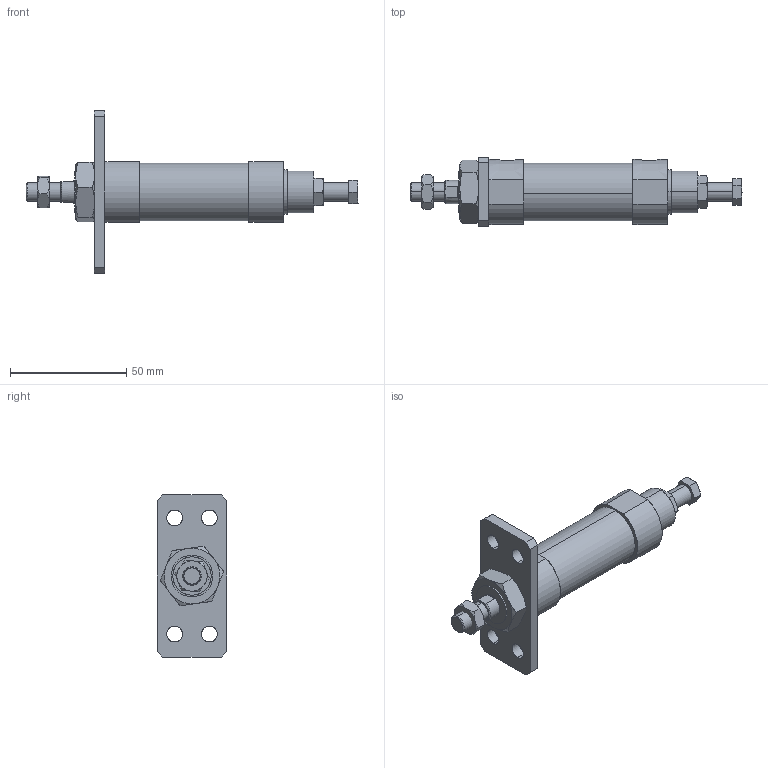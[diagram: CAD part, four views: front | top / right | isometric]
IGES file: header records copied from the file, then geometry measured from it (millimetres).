
Start section: SolidWorks IGES file using analytic representation for surfaces
Global section: file name: C:\Users\Toshiba\Desktop\JGA2-20-15-A.IGS; native system: SolidWorks 2014; preprocessor: SolidWorks 2014; author: Toshiba; date: 160420.130351; units: millimetre
Bounding box: 143 x 30 x 70 mm (x, y, z)
Surface area: 20087.3 mm2 (no closed solid volume)
Topology: 0 solids, 0 shells, 141 faces, 2512 edges, 2512 vertices
Faces by surface type: bspline 99, revolution 42
